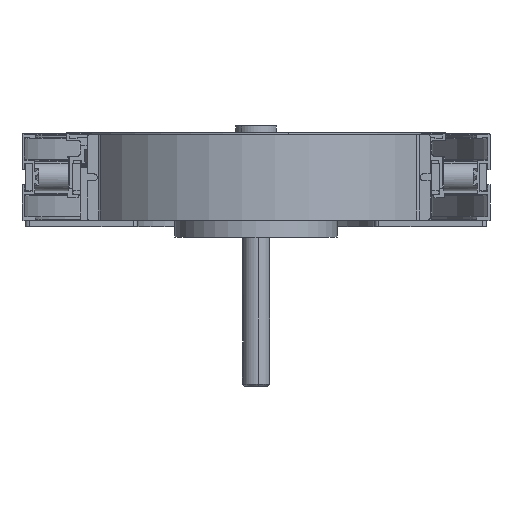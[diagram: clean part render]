
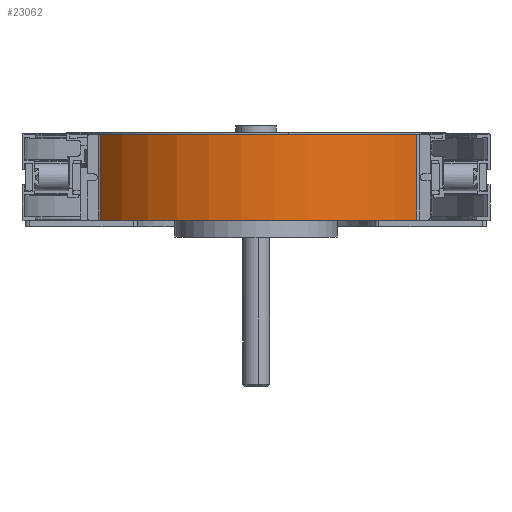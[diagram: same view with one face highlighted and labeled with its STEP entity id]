
A CAD part, front view. The second image highlights one B-rep face of the part: STEP entity #23062.
In plain terms, the highlighted cylindrical face has radius 143 mm (diameter 286 mm), a partial arc.
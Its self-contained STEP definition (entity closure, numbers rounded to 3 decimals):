
#1807 = CYLINDRICAL_SURFACE ( 'NONE', #6593, 143. ) ;
#2202 = ORIENTED_EDGE ( 'NONE', *, *, #6352, .T. ) ;
#2246 = DIRECTION ( 'NONE',  ( 0., 0., 1. ) ) ;
#2367 = EDGE_CURVE ( 'NONE', #38869, #21586, #30085, .T. ) ;
#3100 = CARTESIAN_POINT ( 'NONE',  ( 2048.279, 427.8, 62.997 ) ) ;
#5037 = EDGE_LOOP ( 'NONE', ( #2202, #30681, #31045, #32293 ) ) ;
#5603 = EDGE_CURVE ( 'NONE', #12403, #38869, #25370, .T. ) ;
#5625 = DIRECTION ( 'NONE',  ( 1., 0., 0. ) ) ;
#6002 = DIRECTION ( 'NONE',  ( 1., 0., 0. ) ) ;
#6352 = EDGE_CURVE ( 'NONE', #21586, #8156, #25763, .T. ) ;
#6593 = AXIS2_PLACEMENT_3D ( 'NONE', #15167, #30091, #6002 ) ;
#8156 = VERTEX_POINT ( 'NONE', #32941 ) ;
#8345 = CARTESIAN_POINT ( 'NONE',  ( 2048.279, 427.8, 0. ) ) ;
#9683 = VECTOR ( 'NONE', #10740, 1000. ) ;
#10067 = CARTESIAN_POINT ( 'NONE',  ( 1931.579, 345.156, 0. ) ) ;
#10740 = DIRECTION ( 'NONE',  ( 0., 0., 1. ) ) ;
#12403 = VERTEX_POINT ( 'NONE', #18196 ) ;
#15167 = CARTESIAN_POINT ( 'NONE',  ( 2048.279, 427.8, 0. ) ) ;
#15200 = DIRECTION ( 'NONE',  ( 0., 0., -1. ) ) ;
#15339 = DIRECTION ( 'NONE',  ( 1., 0., 0. ) ) ;
#18196 = CARTESIAN_POINT ( 'NONE',  ( 1931.579, 345.156, 62.997 ) ) ;
#19329 = AXIS2_PLACEMENT_3D ( 'NONE', #8345, #2246, #5625 ) ;
#21586 = VERTEX_POINT ( 'NONE', #36071 ) ;
#22593 = AXIS2_PLACEMENT_3D ( 'NONE', #3100, #15200, #15339 ) ;
#23062 = ADVANCED_FACE ( 'NONE', ( #28564 ), #1807, .T. ) ;
#25370 = LINE ( 'NONE', #10067, #35101 ) ;
#25757 = CIRCLE ( 'NONE', #22593, 143. ) ;
#25763 = LINE ( 'NONE', #35749, #9683 ) ;
#27683 = CARTESIAN_POINT ( 'NONE',  ( 1931.579, 345.156, 0. ) ) ;
#28564 = FACE_OUTER_BOUND ( 'NONE', #5037, .T. ) ;
#30085 = CIRCLE ( 'NONE', #19329, 143. ) ;
#30091 = DIRECTION ( 'NONE',  ( 0., 0., 1. ) ) ;
#30681 = ORIENTED_EDGE ( 'NONE', *, *, #38853, .T. ) ;
#31045 = ORIENTED_EDGE ( 'NONE', *, *, #5603, .T. ) ;
#32090 = DIRECTION ( 'NONE',  ( 0., 0., -1. ) ) ;
#32293 = ORIENTED_EDGE ( 'NONE', *, *, #2367, .T. ) ;
#32941 = CARTESIAN_POINT ( 'NONE',  ( 2164.979, 345.156, 62.997 ) ) ;
#35101 = VECTOR ( 'NONE', #32090, 1000. ) ;
#35749 = CARTESIAN_POINT ( 'NONE',  ( 2164.979, 345.156, 0. ) ) ;
#36071 = CARTESIAN_POINT ( 'NONE',  ( 2164.979, 345.156, 0. ) ) ;
#38853 = EDGE_CURVE ( 'NONE', #8156, #12403, #25757, .T. ) ;
#38869 = VERTEX_POINT ( 'NONE', #27683 ) ;
